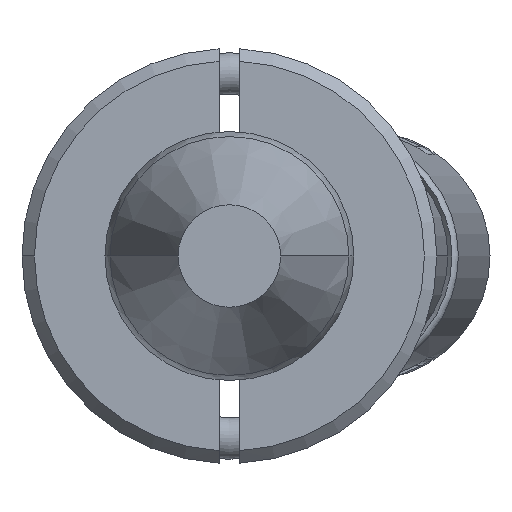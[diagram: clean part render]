
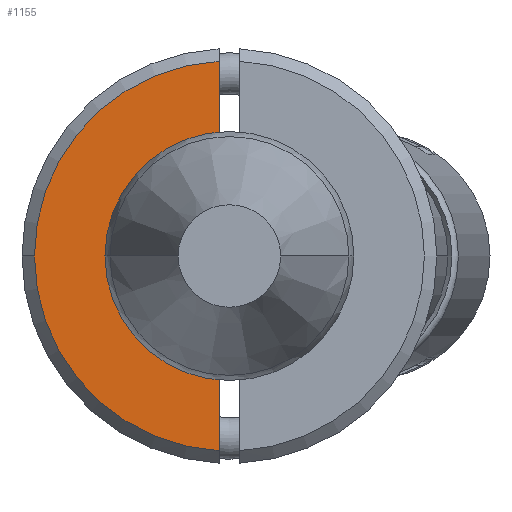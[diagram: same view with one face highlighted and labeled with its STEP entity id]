
A CAD part, front view. The second image highlights one B-rep face of the part: STEP entity #1155.
In plain terms, the highlighted planar face has unit normal (0, -1, 0).
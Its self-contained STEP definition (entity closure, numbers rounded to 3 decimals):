
#6 = CIRCLE ( 'NONE', #2257, 4.7 ) ;
#94 = DIRECTION ( 'NONE',  ( -1., 0., 0. ) ) ;
#95 = CARTESIAN_POINT ( 'NONE',  ( 4.693, -6., 0.25 ) ) ;
#113 = CARTESIAN_POINT ( 'NONE',  ( -4.693, -6., 0.25 ) ) ;
#148 = CARTESIAN_POINT ( 'NONE',  ( 0., -6., 0. ) ) ;
#248 = CARTESIAN_POINT ( 'NONE',  ( -5., -6., 0. ) ) ;
#257 = ORIENTED_EDGE ( 'NONE', *, *, #2609, .T. ) ;
#442 = CARTESIAN_POINT ( 'NONE',  ( 2.437, -6., 0.25 ) ) ;
#482 = CARTESIAN_POINT ( 'NONE',  ( 0., -6., 4.7 ) ) ;
#506 = EDGE_CURVE ( 'NONE', #3720, #3776, #2513, .T. ) ;
#770 = DIRECTION ( 'NONE',  ( 0., -1., 0. ) ) ;
#798 = FACE_OUTER_BOUND ( 'NONE', #2341, .T. ) ;
#1022 = CARTESIAN_POINT ( 'NONE',  ( -5., -6., 0.25 ) ) ;
#1139 = VERTEX_POINT ( 'NONE', #2014 ) ;
#1155 = ADVANCED_FACE ( 'NONE', ( #798 ), #2326, .T. ) ;
#1398 = AXIS2_PLACEMENT_3D ( 'NONE', #148, #770, #2887 ) ;
#1415 = AXIS2_PLACEMENT_3D ( 'NONE', #248, #1451, #3492 ) ;
#1435 = VECTOR ( 'NONE', #94, 1000. ) ;
#1451 = DIRECTION ( 'NONE',  ( 0., -1., 0. ) ) ;
#1548 = AXIS2_PLACEMENT_3D ( 'NONE', #3563, #3054, #3537 ) ;
#1785 = EDGE_CURVE ( 'NONE', #1139, #2681, #2492, .T. ) ;
#1908 = VERTEX_POINT ( 'NONE', #482 ) ;
#2014 = CARTESIAN_POINT ( 'NONE',  ( -2.437, -6., 0.25 ) ) ;
#2208 = CARTESIAN_POINT ( 'NONE',  ( -5., -6., 0.25 ) ) ;
#2257 = AXIS2_PLACEMENT_3D ( 'NONE', #3669, #2507, #2260 ) ;
#2260 = DIRECTION ( 'NONE',  ( 0., 0., -1. ) ) ;
#2324 = ORIENTED_EDGE ( 'NONE', *, *, #3404, .T. ) ;
#2326 = PLANE ( 'NONE',  #1415 ) ;
#2341 = EDGE_LOOP ( 'NONE', ( #3344, #257, #2783, #3757, #2324 ) ) ;
#2492 = LINE ( 'NONE', #2208, #3367 ) ;
#2507 = DIRECTION ( 'NONE',  ( 0., -1., 0. ) ) ;
#2513 = LINE ( 'NONE', #1022, #1435 ) ;
#2609 = EDGE_CURVE ( 'NONE', #3720, #1908, #6, .T. ) ;
#2638 = CIRCLE ( 'NONE', #1548, 2.45 ) ;
#2681 = VERTEX_POINT ( 'NONE', #113 ) ;
#2761 = EDGE_CURVE ( 'NONE', #1908, #2681, #2829, .T. ) ;
#2783 = ORIENTED_EDGE ( 'NONE', *, *, #2761, .T. ) ;
#2829 = CIRCLE ( 'NONE', #1398, 4.7 ) ;
#2887 = DIRECTION ( 'NONE',  ( 0., 0., -1. ) ) ;
#3054 = DIRECTION ( 'NONE',  ( 0., 1., 0. ) ) ;
#3090 = DIRECTION ( 'NONE',  ( -1., 0., 0. ) ) ;
#3344 = ORIENTED_EDGE ( 'NONE', *, *, #506, .F. ) ;
#3367 = VECTOR ( 'NONE', #3090, 1000. ) ;
#3404 = EDGE_CURVE ( 'NONE', #1139, #3776, #2638, .T. ) ;
#3492 = DIRECTION ( 'NONE',  ( 0., 0., -1. ) ) ;
#3537 = DIRECTION ( 'NONE',  ( 0., 0., -1. ) ) ;
#3563 = CARTESIAN_POINT ( 'NONE',  ( 0., -6., 0. ) ) ;
#3669 = CARTESIAN_POINT ( 'NONE',  ( 0., -6., 0. ) ) ;
#3720 = VERTEX_POINT ( 'NONE', #95 ) ;
#3757 = ORIENTED_EDGE ( 'NONE', *, *, #1785, .F. ) ;
#3776 = VERTEX_POINT ( 'NONE', #442 ) ;
